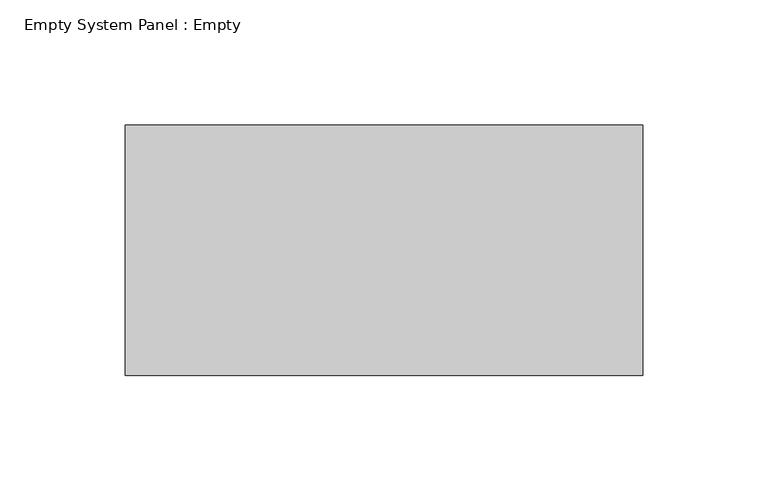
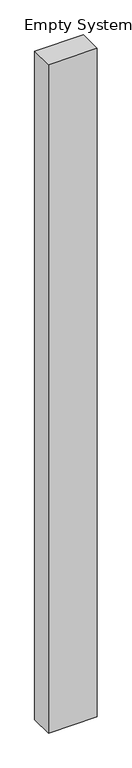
"""IFC4 building model written with IfcOpenShell, lengths in millimetres: plate geometry, Empty System Panel : Empty."""

from ifc_helpers import new_model, si_unit, origin, origin_with_axes, place, context, project, spatial, polyline, outline, extrude, source, transform, mapped, element, save


def empty_system_panel_empty_d58eecfa(model_context):
    return source(origin(), model_context, "Body", "SweptSolid", [
        extrude(outline(polyline([(103.25, -50.0), (-103.25, -50.0), (-103.25, 50.0), (103.25, 50.0), (103.25, -50.0)])), origin_with_axes(), (0.0, 0.0, 1.0), 3000.0),
    ])


if __name__ == "__main__":
    model = new_model("IFC4")
    model_context = context("Model", 3, world=origin())
    ifc_project = project(units=[si_unit("LENGTHUNIT", "METRE", prefix="MILLI")], contexts=[model_context])
    site = spatial("IfcSite", under=ifc_project)
    building = spatial("IfcBuilding", under=site)
    placement = place(None, origin())
    empty_system_panel_empty_shape = empty_system_panel_empty_d58eecfa(model_context)
    element("IfcPlate", 1, ObjectType="Empty System Panel : Empty", at=placement, inside=building, context=model_context, shape_type="MappedRepresentation", body=[
        mapped(empty_system_panel_empty_shape, transform((0.0, 0.0, 0.0), x_axis=(1.0, 0.0, 0.0), y_axis=(0.0, 1.0, 0.0), z_axis=(0.0, 0.0, 1.0))),
    ])
    save(model, "model.ifc")
